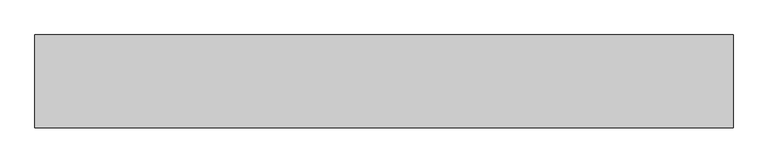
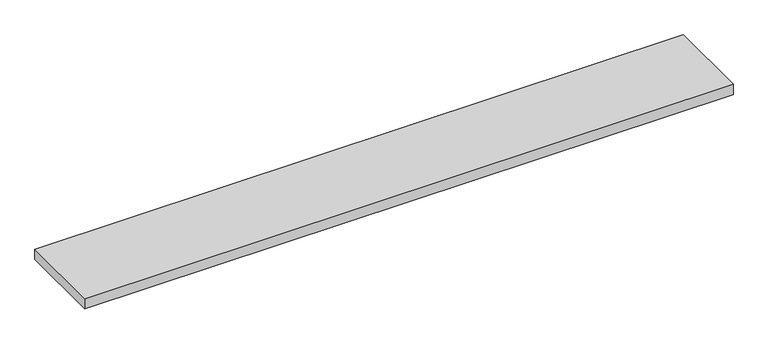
"""IFC4 building model written with IfcOpenShell, lengths in millimetres: proxy geometry, Vita_Решетка : РАП_Алюминиевая продольная."""

from ifc_helpers import new_model, si_unit, frame, origin, place, context, project, spatial, polyline, outline, extrude, source, transform, mapped, element, save


def mechanical_equipment_784c2f27(model_context):
    return source(origin(), model_context, "Body", "SweptSolid", [
        extrude(outline(polyline([(-599.0, -112.8), (599.0, -112.8), (599.0, -272.2), (-599.0, -272.2), (-599.0, -112.8)])), frame((0.0, 0.0, 329.83), z_axis=(0.0, 0.0, 1.0), x_axis=(1.0, 0.0, 0.0)), (0.0, 0.0, 1.0), 20.17),
    ])


if __name__ == "__main__":
    model = new_model("IFC4")
    model_context = context("Model", 3, world=origin())
    ifc_project = project(units=[si_unit("LENGTHUNIT", "METRE", prefix="MILLI")], contexts=[model_context])
    site = spatial("IfcSite", under=ifc_project)
    building = spatial("IfcBuilding", under=site)
    placement = place(None, origin())
    mechanical_equipment_shape = mechanical_equipment_784c2f27(model_context)
    element("IfcBuildingElementProxy", 1, Name="Vita_Решетка : РАП_Алюминиевая продольная", ObjectType="Vita_Решетка : РАП_Алюминиевая продольная", at=placement, inside=building, context=model_context, shape_type="MappedRepresentation", body=[
        mapped(mechanical_equipment_shape, transform((0.0, 0.0, 0.0), x_axis=(1.0, 0.0, 0.0), y_axis=(0.0, 1.0, 0.0), z_axis=(0.0, 0.0, 1.0))),
    ])
    save(model, "model.ifc")
